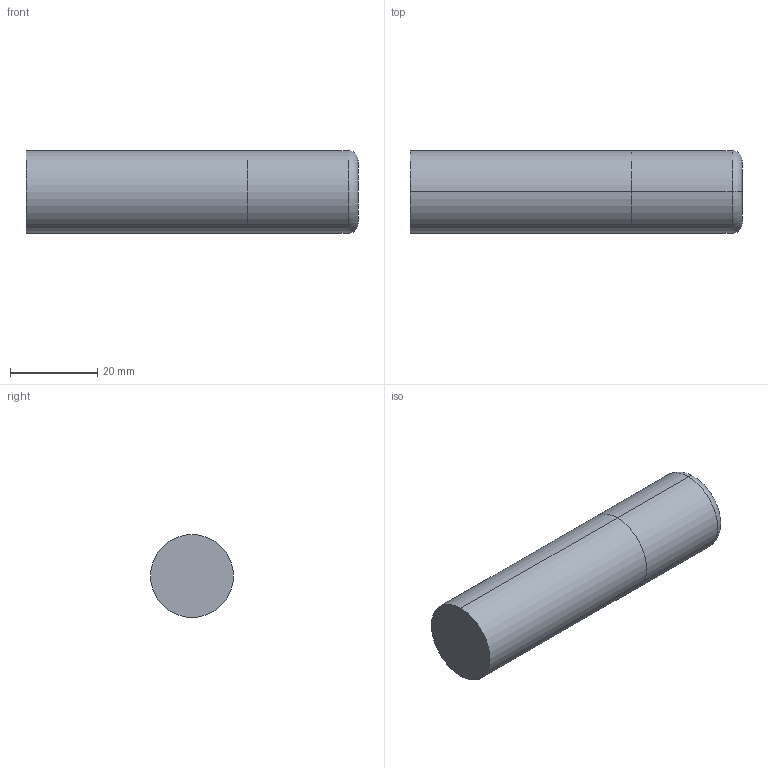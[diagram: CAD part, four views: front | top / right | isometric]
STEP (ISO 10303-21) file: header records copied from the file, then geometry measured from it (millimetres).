
FILE_DESCRIPTION (( 'STEP AP214' ), '1' );
FILE_NAME ('SSIST70750-090.STEP', '2025-05-30T15:43:53', ( '' ), ( '' ), 'SwSTEP 2.0', 'SolidWorks 2023', '' );
FILE_SCHEMA (( 'AUTOMOTIVE_DESIGN' ));
Length unit declared in the file: inch
Products named in the file (3): SSI7 Cut Only_SSIST70750-090; SSI7 Shank Only_SSIST70750-090; SSIST70750-090
Assembly tree (2 placements, depth 2):
  SSIST70750-090
    SSI7 Cut Only_SSIST70750-090
    SSI7 Shank Only_SSIST70750-090
Bounding box: 76.2 x 19.05 x 19.05 mm (x, y, z)
Volume: 21655.2 mm3; surface area: 5639.4 mm2
Topology: 2 solids, 2 shells, 10 faces, 16 edges, 10 vertices
Faces by surface type: cylinder 4, plane 4, torus 2
Entity records: 334 total; most frequent: DIRECTION 58, CARTESIAN_POINT 41, ORIENTED_EDGE 32, AXIS2_PLACEMENT_3D 27, EDGE_CURVE 16, CIRCLE 12, FACE_OUTER_BOUND 10, ADVANCED_FACE 10
